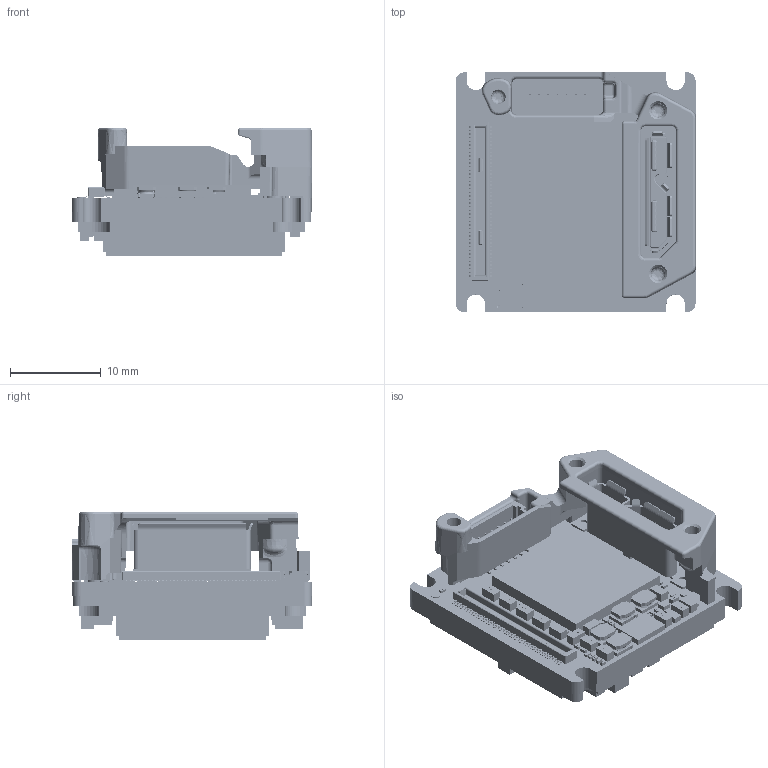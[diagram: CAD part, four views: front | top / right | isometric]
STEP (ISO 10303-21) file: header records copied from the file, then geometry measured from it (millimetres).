
FILE_DESCRIPTION (( 'STEP AP214' ), '1' );
FILE_NAME ('Alvium-USB180-Bare-Board-IMX183.STEP', '2022-12-21T12:30:00', ( '' ), ( '' ), 'SwSTEP 2.0', 'SolidWorks 2021', '' );
FILE_SCHEMA (( 'AUTOMOTIVE_DESIGN' ));
Length unit declared in the file: millimetre
Products named in the file (1): Alvium-USB180-Bare-Board-IMX183
Bounding box: 26.48 x 26.45 x 14.14 mm (x, y, z)
Surface area: 6544.3 mm2 (no closed solid volume)
Topology: 0 solids, 353 shells, 7755 faces, 23515 edges, 16702 vertices
Faces by surface type: plane 4276, bspline 2421, cylinder 954, cone 46, torus 40, sphere 18
Entity records: 525815 total; most frequent: CARTESIAN_POINT 251740, ORIENTED_EDGE 41901, DIRECTION 28125, EDGE_CURVE 23508, VERTEX_POINT 16742, VECTOR 13473, LINE 13473, EDGE_LOOP 8650
